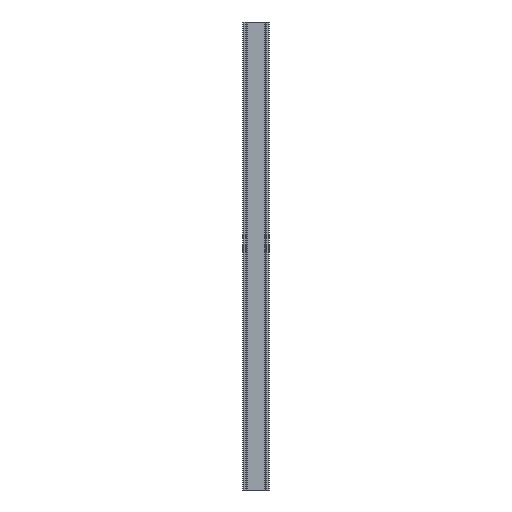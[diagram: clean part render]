
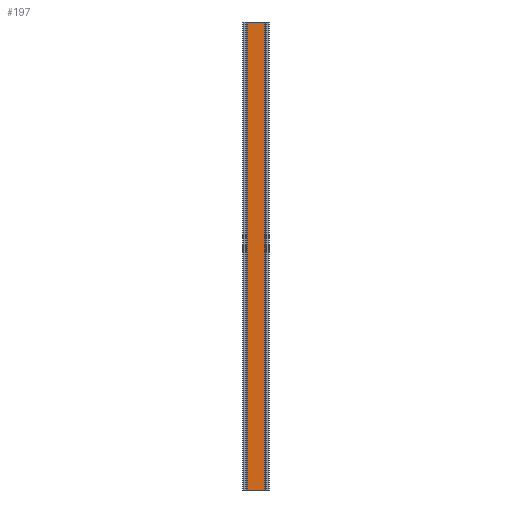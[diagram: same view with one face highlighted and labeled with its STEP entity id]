
A CAD part, front view. The second image highlights one B-rep face of the part: STEP entity #197.
In plain terms, the highlighted planar face has unit normal (0.001, -1, 0).
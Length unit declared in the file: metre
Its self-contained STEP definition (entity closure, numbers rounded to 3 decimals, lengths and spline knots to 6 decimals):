
#197=ADVANCED_FACE('5:9479',(#389),#390,.T.);
#389=FACE_OUTER_BOUND('',#575,.T.);
#390=PLANE('',#576);
#575=EDGE_LOOP('',(#1063,#1064,#1065,#1066));
#576=AXIS2_PLACEMENT_3D('',#1067,#1068,#1069);
#1063=ORIENTED_EDGE('',*,*,#1344,.T.);
#1064=ORIENTED_EDGE('',*,*,#1151,.T.);
#1065=ORIENTED_EDGE('',*,*,#1347,.F.);
#1066=ORIENTED_EDGE('',*,*,#1348,.T.);
#1067=CARTESIAN_POINT('',(0.000556,0.000017,0.0));
#1068=DIRECTION('',(0.001,-1.,0.0));
#1069=DIRECTION('',(1.,0.001,0.0));
#1151=EDGE_CURVE('5:9944',#1377,#1375,#1378,.F.);
#1344=EDGE_CURVE('5:9938',#1663,#1377,#1664,.T.);
#1347=EDGE_CURVE('5:9947',#1667,#1375,#1668,.T.);
#1348=EDGE_CURVE('5:9950',#1667,#1663,#1669,.T.);
#1375=VERTEX_POINT('',#1701);
#1377=VERTEX_POINT('',#1703);
#1378=LINE('',#1704,#1705);
#1663=VERTEX_POINT('',#2090);
#1664=LINE('',#2091,#2092);
#1667=VERTEX_POINT('',#2095);
#1668=LINE('',#2096,#2097);
#1669=LINE('',#2098,#2099);
#1701=CARTESIAN_POINT('',(-0.005132,0.000013,0.30473));
#1703=CARTESIAN_POINT('',(0.006243,0.000022,0.30473));
#1704=CARTESIAN_POINT('',(0.000278,0.000017,0.30473));
#1705=VECTOR('',#2124,1.0);
#2090=CARTESIAN_POINT('',(0.006243,0.000022,0.0));
#2091=CARTESIAN_POINT('',(0.006243,0.000022,0.0));
#2092=VECTOR('',#2354,1.0);
#2095=CARTESIAN_POINT('',(-0.005132,0.000013,0.0));
#2096=CARTESIAN_POINT('',(-0.005132,0.000013,0.0));
#2097=VECTOR('',#2358,1.0);
#2098=CARTESIAN_POINT('',(-0.005132,0.000013,0.0));
#2099=VECTOR('',#2359,1.0);
#2124=DIRECTION('',(1.,0.001,-0.0));
#2354=DIRECTION('',(0.0,0.0,1.0));
#2358=DIRECTION('',(0.0,0.0,1.0));
#2359=DIRECTION('',(1.,0.001,0.0));
